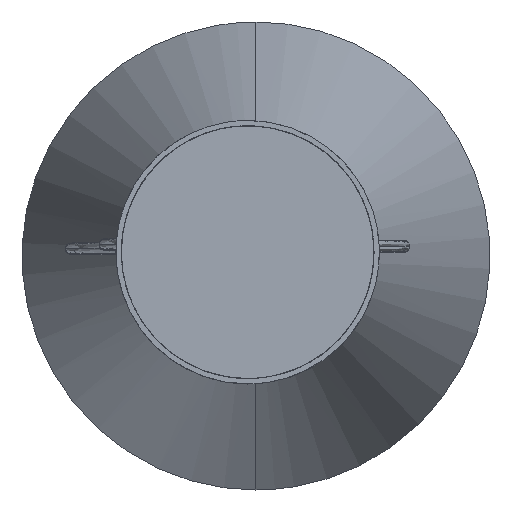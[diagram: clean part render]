
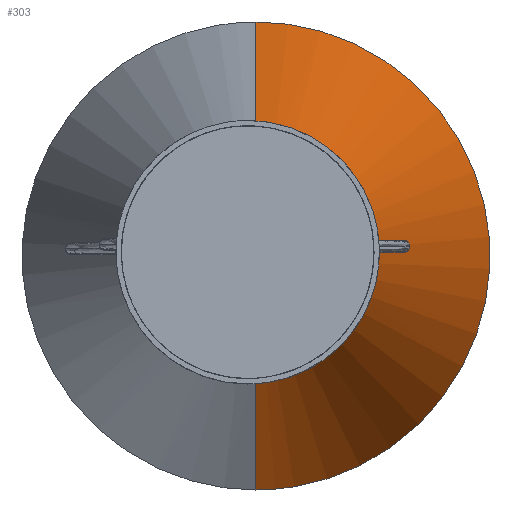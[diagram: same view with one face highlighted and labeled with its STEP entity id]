
A CAD part, top view. The second image highlights one B-rep face of the part: STEP entity #303.
In plain terms, the highlighted free-form (B-spline) face has degree [2, 1] with [5, 2] control points.
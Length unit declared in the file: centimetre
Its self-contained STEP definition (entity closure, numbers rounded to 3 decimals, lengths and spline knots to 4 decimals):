
#82=(
BOUNDED_SURFACE()
B_SPLINE_SURFACE(2,1,((#3597,#3598),(#3599,#3600),(#3601,#3602),(#3603,
#3604),(#3605,#3606)),.UNSPECIFIED.,.F.,.F.,.F.)
B_SPLINE_SURFACE_WITH_KNOTS((3,2,3),(2,2),(0.,131.1615,262.323),
(0.,162.6407),.UNSPECIFIED.)
GEOMETRIC_REPRESENTATION_ITEM()
RATIONAL_B_SPLINE_SURFACE(((1.,1.),(0.707,0.707),
(1.,1.),(0.707,0.707),(1.,1.)))
REPRESENTATION_ITEM('')
SURFACE()
);
#174=(
BOUNDED_CURVE()
B_SPLINE_CURVE(2,(#3663,#3664,#3665,#3666,#3667),.UNSPECIFIED.,.F.,.F.)
B_SPLINE_CURVE_WITH_KNOTS((3,2,3),(0.,58.9049,117.8097),
 .UNSPECIFIED.)
CURVE()
GEOMETRIC_REPRESENTATION_ITEM()
RATIONAL_B_SPLINE_CURVE((1.,0.707,1.,0.707,1.))
REPRESENTATION_ITEM('')
);
#175=(
BOUNDED_CURVE()
B_SPLINE_CURVE(2,(#3670,#3671,#3672,#3673,#3674),.UNSPECIFIED.,.F.,.F.)
B_SPLINE_CURVE_WITH_KNOTS((3,2,3),(-524.646,-393.4845,
-262.323),.UNSPECIFIED.)
CURVE()
GEOMETRIC_REPRESENTATION_ITEM()
RATIONAL_B_SPLINE_CURVE((1.,0.707,1.,0.707,1.))
REPRESENTATION_ITEM('')
);
#303=ADVANCED_FACE('',(#394),#82,.T.);
#394=FACE_OUTER_BOUND('',#498,.T.);
#498=EDGE_LOOP('',(#769,#770,#771,#772));
#769=ORIENTED_EDGE('',*,*,#988,.T.);
#770=ORIENTED_EDGE('',*,*,#985,.F.);
#771=ORIENTED_EDGE('',*,*,#984,.F.);
#772=ORIENTED_EDGE('',*,*,#983,.T.);
#983=EDGE_CURVE('',#1165,#1162,#174,.T.);
#984=EDGE_CURVE('',#1165,#1164,#1067,.T.);
#985=EDGE_CURVE('',#1164,#1167,#175,.T.);
#988=EDGE_CURVE('',#1162,#1167,#1069,.T.);
#1067=B_SPLINE_CURVE_WITH_KNOTS('',1,(#3668,#3669),.UNSPECIFIED.,.F.,.F.,
(2,2),(0.,162.6407),.UNSPECIFIED.);
#1069=B_SPLINE_CURVE_WITH_KNOTS('',1,(#3682,#3683),.UNSPECIFIED.,.F.,.F.,
(2,2),(0.,162.6407),.UNSPECIFIED.);
#1162=VERTEX_POINT('',#3630);
#1164=VERTEX_POINT('',#3632);
#1165=VERTEX_POINT('',#3633);
#1167=VERTEX_POINT('',#3635);
#3597=CARTESIAN_POINT('',(2.975,38.7,-1313.0966));
#3598=CARTESIAN_POINT('',(2.975,84.7,-1469.0966));
#3599=CARTESIAN_POINT('',(40.475,38.7,-1313.0966));
#3600=CARTESIAN_POINT('',(86.475,84.7,-1469.0966));
#3601=CARTESIAN_POINT('',(40.475,1.2,-1313.0966));
#3602=CARTESIAN_POINT('',(86.475,1.2,-1469.0966));
#3603=CARTESIAN_POINT('',(40.475,-36.3,-1313.0966));
#3604=CARTESIAN_POINT('',(86.475,-82.3,-1469.0966));
#3605=CARTESIAN_POINT('',(2.975,-36.3,-1313.0966));
#3606=CARTESIAN_POINT('',(2.975,-82.3,-1469.0966));
#3630=CARTESIAN_POINT('',(2.975,-36.3,-1313.0966));
#3632=CARTESIAN_POINT('',(2.975,84.7,-1469.0966));
#3633=CARTESIAN_POINT('',(2.975,38.7,-1313.0966));
#3635=CARTESIAN_POINT('',(2.975,-82.3,-1469.0966));
#3663=CARTESIAN_POINT('',(2.975,38.7,-1313.0966));
#3664=CARTESIAN_POINT('',(40.475,38.7,-1313.0966));
#3665=CARTESIAN_POINT('',(40.475,1.2,-1313.0966));
#3666=CARTESIAN_POINT('',(40.475,-36.3,-1313.0966));
#3667=CARTESIAN_POINT('',(2.975,-36.3,-1313.0966));
#3668=CARTESIAN_POINT('',(2.975,38.7,-1313.0966));
#3669=CARTESIAN_POINT('',(2.975,84.7,-1469.0966));
#3670=CARTESIAN_POINT('',(2.975,84.7,-1469.0966));
#3671=CARTESIAN_POINT('',(86.475,84.7,-1469.0966));
#3672=CARTESIAN_POINT('',(86.475,1.2,-1469.0966));
#3673=CARTESIAN_POINT('',(86.475,-82.3,-1469.0966));
#3674=CARTESIAN_POINT('',(2.975,-82.3,-1469.0966));
#3682=CARTESIAN_POINT('',(2.975,-36.3,-1313.0966));
#3683=CARTESIAN_POINT('',(2.975,-82.3,-1469.0966));
